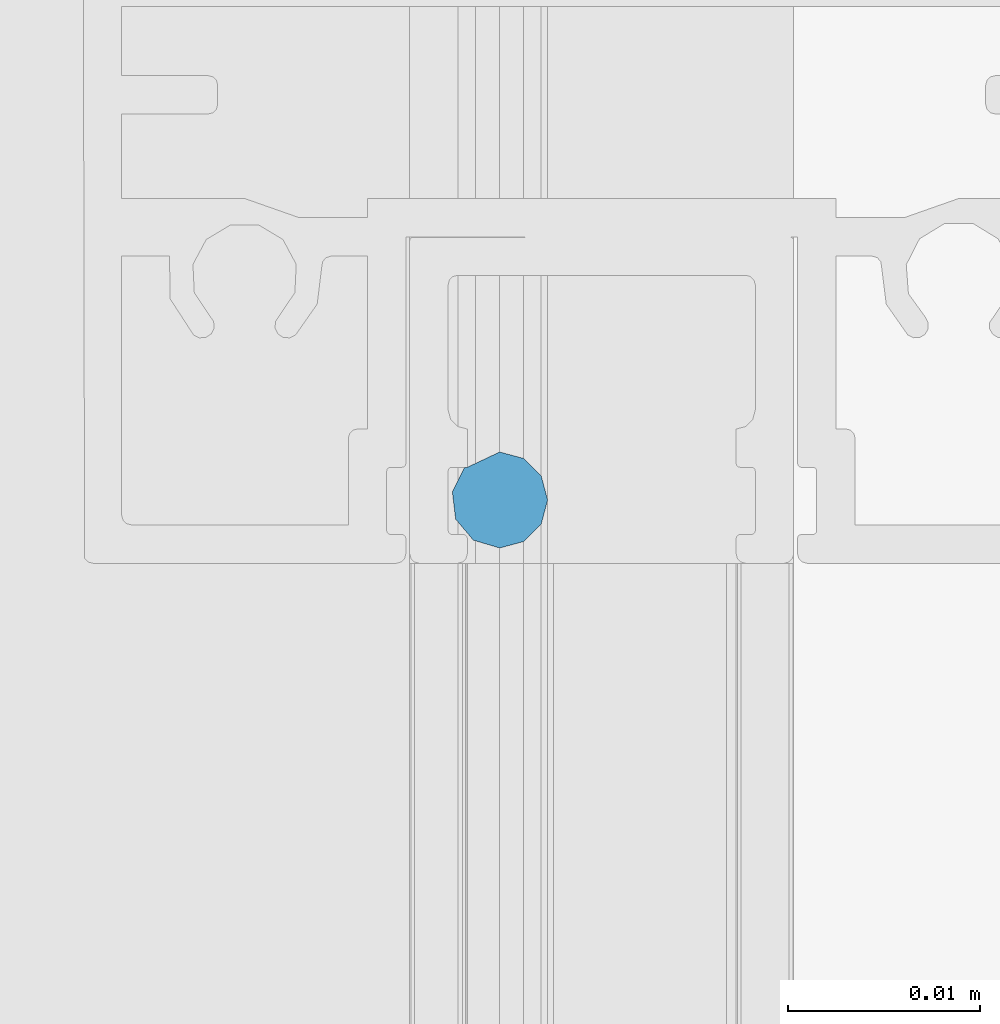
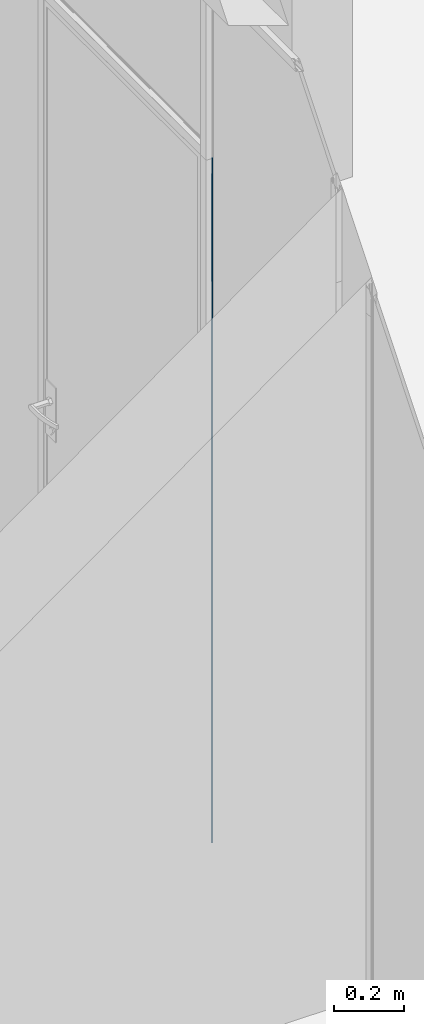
# One storey, part 97 of 387: 1 building element part, 2 elements without a shape of their own.
"""IFC2X3 building model written with IfcOpenShell, lengths in millimetres."""

from ifc_helpers import new_model, entity, si_unit, converted_unit, derived_unit, money_unit, direction, frame, origin_with_axes, place, context, subcontext, project, spatial, faceted_brep, source, transform, mapped, material, type_object, element, aggregate, save


model = new_model("IFC2X3")

# Units and contexts
model_context = context("Model", 3, precision=0.01, world=origin_with_axes(), true_north=direction((0.0, 1.0)))
body_context = subcontext(model_context, "Body", "Model", "MODEL_VIEW")
ifc_project = project(units=[si_unit("LENGTHUNIT", "METRE", prefix="MILLI"), si_unit("AREAUNIT", "SQUARE_METRE"), si_unit("VOLUMEUNIT", "CUBIC_METRE"), converted_unit("PLANEANGLEUNIT", "DEGREE", entity("IfcPlaneAngleMeasure", 0.0174532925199), si_unit("PLANEANGLEUNIT", "RADIAN"), dimensions=[0, 0, 0, 0, 0, 0, 0]), si_unit("SOLIDANGLEUNIT", "STERADIAN"), money_unit("EUR"), converted_unit("TIMEUNIT", "Year", entity("IfcTimeMeasure", 31556926.0), si_unit("TIMEUNIT", "SECOND"), dimensions=[0, 0, 1, 0, 0, 0, 0]), si_unit("MASSUNIT", "GRAM", prefix="KILO"), si_unit("THERMODYNAMICTEMPERATUREUNIT", "DEGREE_CELSIUS"), si_unit("LUMINOUSINTENSITYUNIT", "LUMEN"), si_unit("ENERGYUNIT", "JOULE", prefix="MEGA"), derived_unit("THERMALCONDUCTANCEUNIT", [(si_unit("POWERUNIT", "WATT"), 1), (si_unit("LENGTHUNIT", "METRE"), -1), (si_unit("THERMODYNAMICTEMPERATUREUNIT", "KELVIN"), -1)]), derived_unit("SPECIFICHEATCAPACITYUNIT", [(si_unit("ENERGYUNIT", "JOULE"), 1), (si_unit("MASSUNIT", "GRAM", prefix="KILO"), -1), (si_unit("THERMODYNAMICTEMPERATUREUNIT", "KELVIN"), -1)]), derived_unit("MASSDENSITYUNIT", [(si_unit("MASSUNIT", "GRAM", prefix="KILO"), 1), (si_unit("VOLUMEUNIT", "CUBIC_METRE"), -1)])], contexts=[model_context])

# Site, building, storey
site_placement = place(None, origin_with_axes())
site = spatial("IfcSite", under=ifc_project, at=site_placement, Name="Puškini 31, Narva", CompositionType="ELEMENT")
building_placement = place(site_placement, origin_with_axes())
building = spatial("IfcBuilding", under=site, at=building_placement, Name="Narva Riigigümnaasium", CompositionType="ELEMENT")
storey_placement = place(building_placement, frame((0.0, 0.0, 2640.0), z_axis=(0.0, 0.0, 1.0), x_axis=(1.0, 0.0, 0.0)))
storey = spatial("IfcBuildingStorey", under=building, at=storey_placement, Name="2.korrus +2.64", CompositionType="ELEMENT", Elevation=2640.0)

# Curtain wall, member, building element part
curtain_wall_type = type_object("IfcCurtainWallType", Name="Curtain Wall Type", PredefinedType="NOTDEFINED")
curtain_wall_placement = place(storey_placement, frame((28390.0000001, 185629.946958, -0.000112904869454), z_axis=(0.0, 0.0, 1.0), x_axis=(1.0, 0.0, 0.0)))
curtain_wall = element("IfcCurtainWall", 1, at=curtain_wall_placement, inside=storey, type_object=curtain_wall_type, Name="G-SKLF-20")
member_type = type_object("IfcMemberType", Name="32 x 17", PredefinedType="MULLION")
member_placement = place(curtain_wall_placement, frame((0.0, -450.0, 0.0), z_axis=(0.0, 0.0, 1.0), x_axis=(0.0, -1.0, 0.0)))
member = element("IfcMember", 2, at=member_placement, type_object=member_type, Name="G-SKLF-29-raam", ObjectType="MULLION")
aggregate(curtain_wall, [member])
ifc_material = material(Name="Soojustus - Mineraal Kõva")
shared_shape = source(origin_with_axes(), body_context, "Body", "Brep", [
    faceted_brep([(-27.0, 6.99999999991, 0.0), (-27.0, 6.99999999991, 2400.00000477), (-26.2036516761, 5.31494614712, 2400.00000477), (-26.2036516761, 5.31494614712, 0.0), (-26.9999999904, 7.14458303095, 0.0), (-26.9999999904, 7.14458303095, 2400.00000477), (-28.2816360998, 7.77906932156, 2400.00000477), (-29.7013667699, 7.60722987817, 2400.00000477), (-30.7946188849, 6.68529507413, 2400.00000477), (-31.2036516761, 5.31494614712, 2400.00000477), (-30.8687151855, 4.06494614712, 2400.00000477), (-29.9536516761, 3.14988263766, 2400.00000477), (-28.7036516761, 2.81494614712, 2400.00000477), (-27.4536516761, 3.14988263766, 2400.00000477), (-26.5385881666, 4.06494614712, 2400.00000477), (-26.5385881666, 4.06494614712, 0.0), (-27.4536516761, 3.14988263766, 0.0), (-28.7036516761, 2.81494614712, 0.0), (-29.9536516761, 3.14988263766, 0.0), (-30.8687151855, 4.06494614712, 0.0), (-31.2036516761, 5.31494614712, 0.0), (-30.7946188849, 6.68529507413, 0.0), (-29.7013667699, 7.60722987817, 0.0), (-28.2816360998, 7.77906932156, 0.0)], [[[0, 1, 2, 3]], [[4, 5, 1, 0]], [[1, 5, 6, 7, 8, 9, 10, 11, 12, 13, 14, 2]], [[3, 2, 14, 15]], [[0, 3, 15, 16, 17, 18, 19, 20, 21, 22, 23, 4]], [[23, 6, 5, 4]], [[22, 7, 6, 23]], [[21, 8, 7, 22]], [[20, 9, 8, 21]], [[19, 10, 9, 20]], [[18, 11, 10, 19]], [[17, 12, 11, 18]], [[16, 13, 12, 17]], [[15, 14, 13, 16]]]),
])
building_element_part_placement = place(member_placement, origin_with_axes())
building_element_part = element("IfcBuildingElementPart", 3, at=building_element_part_placement, material=ifc_material, Name="Soojustus - Mineraal Kõva", context=body_context, shape_type="MappedRepresentation", body=[
    mapped(shared_shape, transform((0.0, 0.0, 0.0), x_axis=(-1.0, 0.0, 0.0), y_axis=(0.0, -1.0, 0.0), z_axis=(0.0, 0.0, 1.0))),
])
aggregate(member, [building_element_part])

save(model, "model.ifc")
